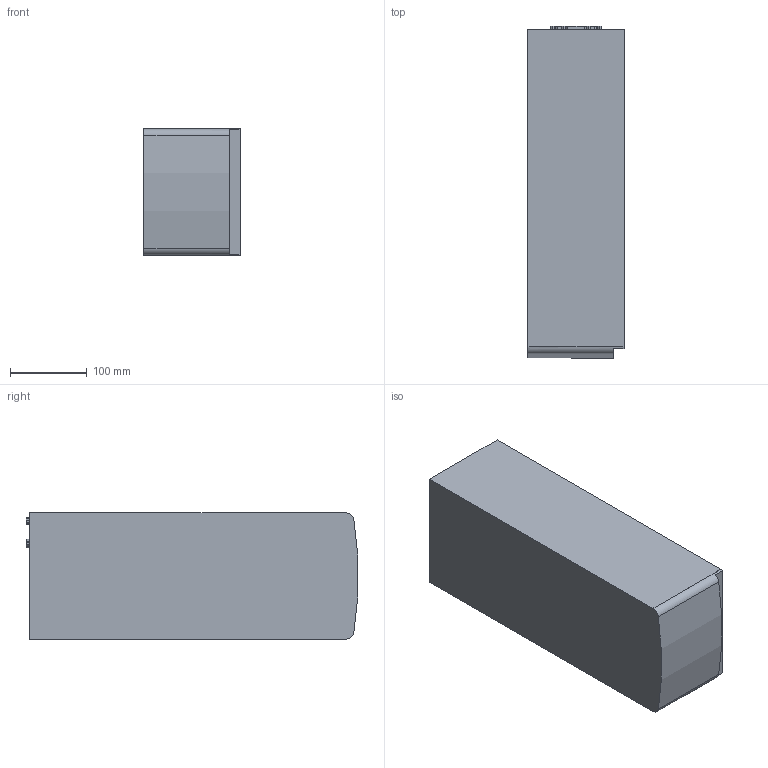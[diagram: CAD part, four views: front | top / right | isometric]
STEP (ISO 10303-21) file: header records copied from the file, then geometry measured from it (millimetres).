
FILE_DESCRIPTION(/* description */ ('STEP AP203'),/* implementation_level */ '2;1');
FILE_NAME(/* name */ '',/* time_stamp */ '2025-12-09T15:54:30+09:00',/* author */ (''),/* organization */ (''),/* preprocessor_version */ 'ST-DEVELOPER v20.1',/* originating_system */ 'Autodesk Translation Framework v14.21.0.0',/* authorisation */ '');
FILE_SCHEMA (('AUTOMOTIVE_DESIGN { 1 0 10303 214 3 1 1 }'));
Length unit declared in the file: millimetre
Products named in the file (1): UV-Mark200
Bounding box: 125 x 431.66 x 164 mm (x, y, z)
Volume: 8624760.4 mm3; surface area: 316218.1 mm2
Topology: 2 solids, 2 shells, 242 faces, 551 edges, 367 vertices
Faces by surface type: plane 166, cylinder 70, sphere 5, cone 1
Full cylindrical faces by diameter (mm): 3.3 x4, 4 x14, 4.2 x16, 6.5 x1, 7 x4, 20 x1, 85 x1, 102.8 x1, 103 x1
Entity records: 6999 total; most frequent: DIRECTION 1241, CARTESIAN_POINT 1161, ORIENTED_EDGE 1102, EDGE_CURVE 551, AXIS2_PLACEMENT_3D 447, VERTEX_POINT 367, LINE 347, VECTOR 347
